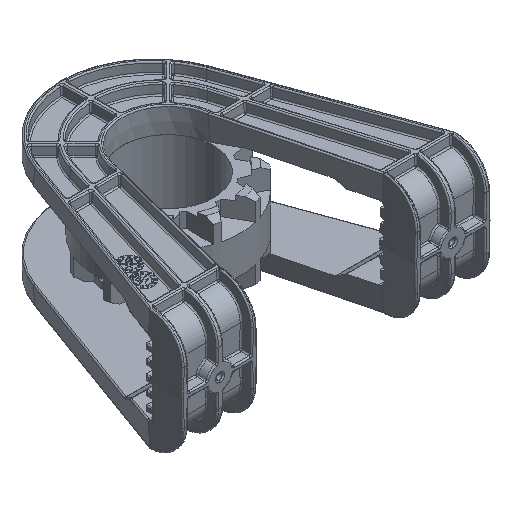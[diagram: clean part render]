
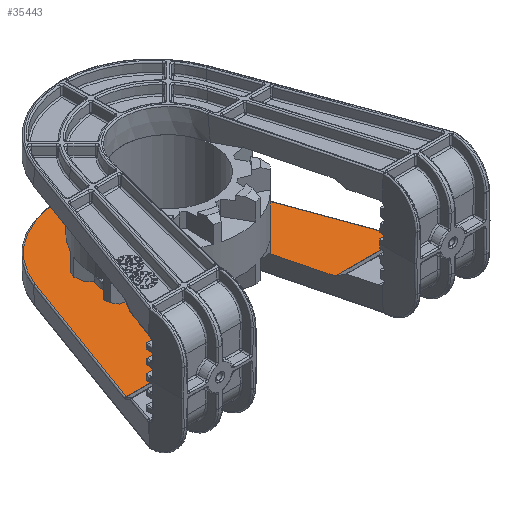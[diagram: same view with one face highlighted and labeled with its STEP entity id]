
A CAD part, isometric view. The second image highlights one B-rep face of the part: STEP entity #35443.
In plain terms, the highlighted planar face has unit normal (0, 0, 1).
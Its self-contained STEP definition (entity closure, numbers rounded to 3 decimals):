
#1847 = CARTESIAN_POINT ( 'NONE',  ( -20.079, -8.832, -16. ) ) ;
#3156 = DIRECTION ( 'NONE',  ( 0., 0., -1. ) ) ;
#3862 = CARTESIAN_POINT ( 'NONE',  ( 0., 5.68, -16. ) ) ;
#4223 = EDGE_LOOP ( 'NONE', ( #18133, #47985, #24289, #18151, #28678, #7594, #11829, #5000, #27649, #31219, #21026, #26348 ) ) ;
#4475 = DIRECTION ( 'NONE',  ( 1., 0., 0. ) ) ;
#4730 = CARTESIAN_POINT ( 'NONE',  ( 0., 5.68, -16. ) ) ;
#5000 = ORIENTED_EDGE ( 'NONE', *, *, #25283, .T. ) ;
#5078 = CARTESIAN_POINT ( 'NONE',  ( -19.907, -9.111, -16. ) ) ;
#5920 = LINE ( 'NONE', #43478, #38930 ) ;
#6072 = CARTESIAN_POINT ( 'NONE',  ( 26.891, -36.528, -16. ) ) ;
#6217 = CARTESIAN_POINT ( 'NONE',  ( -32.788, 17.614, -16. ) ) ;
#6945 = VECTOR ( 'NONE', #4475, 1000. ) ;
#7594 = ORIENTED_EDGE ( 'NONE', *, *, #61002, .T. ) ;
#8275 = CARTESIAN_POINT ( 'NONE',  ( 6.622, 43.048, -16. ) ) ;
#8413 = VERTEX_POINT ( 'NONE', #60942 ) ;
#8722 = CARTESIAN_POINT ( 'NONE',  ( 0., -36.528, -16. ) ) ;
#8930 = DIRECTION ( 'NONE',  ( -0.342, -0.94, 0. ) ) ;
#10292 = EDGE_CURVE ( 'NONE', #34547, #33621, #5920, .T. ) ;
#10445 = EDGE_CURVE ( 'NONE', #30846, #32881, #24579, .T. ) ;
#11627 = EDGE_CURVE ( 'NONE', #48655, #33602, #58196, .T. ) ;
#11829 = ORIENTED_EDGE ( 'NONE', *, *, #11627, .T. ) ;
#11835 = CARTESIAN_POINT ( 'NONE',  ( 32.788, 17.614, -16. ) ) ;
#12977 = CARTESIAN_POINT ( 'NONE',  ( 20.74, -7.338, -16. ) ) ;
#13316 = DIRECTION ( 'NONE',  ( 0., 0., 1. ) ) ;
#13423 = EDGE_CURVE ( 'NONE', #18083, #24098, #24248, .T. ) ;
#13757 = EDGE_CURVE ( 'NONE', #8413, #29912, #27077, .T. ) ;
#13772 = AXIS2_PLACEMENT_3D ( 'NONE', #17136, #3156, #40681 ) ;
#14533 = DIRECTION ( 'NONE',  ( -0.342, 0.94, 0. ) ) ;
#14537 = CARTESIAN_POINT ( 'NONE',  ( -6.622, 43.048, -16. ) ) ;
#15807 = EDGE_CURVE ( 'NONE', #32881, #18012, #37915, .T. ) ;
#16444 = CARTESIAN_POINT ( 'NONE',  ( 0., 40.573, -16. ) ) ;
#17136 = CARTESIAN_POINT ( 'NONE',  ( 0., 0., -16. ) ) ;
#17708 = LINE ( 'NONE', #28409, #23580 ) ;
#17712 = CARTESIAN_POINT ( 'NONE',  ( 19.907, -9.111, -16. ) ) ;
#18012 = VERTEX_POINT ( 'NONE', #47261 ) ;
#18083 = VERTEX_POINT ( 'NONE', #61420 ) ;
#18087 = EDGE_CURVE ( 'NONE', #63055, #34547, #37696, .T. ) ;
#18133 = ORIENTED_EDGE ( 'NONE', *, *, #20943, .T. ) ;
#18151 = ORIENTED_EDGE ( 'NONE', *, *, #19869, .T. ) ;
#19869 = EDGE_CURVE ( 'NONE', #18012, #18083, #17708, .T. ) ;
#20607 = CARTESIAN_POINT ( 'NONE',  ( 0., 41.361, -16. ) ) ;
#20739 = CARTESIAN_POINT ( 'NONE',  ( -20.74, -7.338, -16. ) ) ;
#20943 = EDGE_CURVE ( 'NONE', #33621, #30846, #32067, .T. ) ;
#21026 = ORIENTED_EDGE ( 'NONE', *, *, #18087, .T. ) ;
#21376 = VECTOR ( 'NONE', #8930, 1000. ) ;
#22653 = CARTESIAN_POINT ( 'NONE',  ( 19.907, -9.111, -16. ) ) ;
#23580 = VECTOR ( 'NONE', #58580, 1000. ) ;
#24098 = VERTEX_POINT ( 'NONE', #25966 ) ;
#24248 = LINE ( 'NONE', #14537, #57197 ) ;
#24289 = ORIENTED_EDGE ( 'NONE', *, *, #15807, .T. ) ;
#24579 = CIRCLE ( 'NONE', #65330, 34.892 ) ;
#25283 = EDGE_CURVE ( 'NONE', #33602, #8413, #52481, .T. ) ;
#25966 = CARTESIAN_POINT ( 'NONE',  ( -19.907, -9.111, -16. ) ) ;
#26348 = ORIENTED_EDGE ( 'NONE', *, *, #10292, .T. ) ;
#26811 = DIRECTION ( 'NONE',  ( 0., 1., 0. ) ) ;
#27077 = B_SPLINE_CURVE_WITH_KNOTS ( 'NONE', 3,
 ( #12977, #54936, #30096, #36565, #34418, #22653 ),
 .UNSPECIFIED., .F., .F.,
 ( 4, 2, 4 ),
 ( 0., 0.001, 0.002 ),
 .UNSPECIFIED. ) ;
#27649 = ORIENTED_EDGE ( 'NONE', *, *, #13757, .T. ) ;
#27941 = VECTOR ( 'NONE', #33014, 1000. ) ;
#28409 = CARTESIAN_POINT ( 'NONE',  ( 0., -36.528, -16. ) ) ;
#28678 = ORIENTED_EDGE ( 'NONE', *, *, #13423, .T. ) ;
#29163 = DIRECTION ( 'NONE',  ( 0., 1., 0. ) ) ;
#29912 = VERTEX_POINT ( 'NONE', #17712 ) ;
#30096 = CARTESIAN_POINT ( 'NONE',  ( 20.508, -7.949, -16. ) ) ;
#30345 = EDGE_CURVE ( 'NONE', #29912, #63055, #66383, .T. ) ;
#30540 = AXIS2_PLACEMENT_3D ( 'NONE', #43949, #37446, #26811 ) ;
#30846 = VERTEX_POINT ( 'NONE', #16444 ) ;
#31219 = ORIENTED_EDGE ( 'NONE', *, *, #30345, .T. ) ;
#31600 = DIRECTION ( 'NONE',  ( 0., 1., 0. ) ) ;
#32067 = CIRCLE ( 'NONE', #47286, 34.892 ) ;
#32804 = DIRECTION ( 'NONE',  ( 0.247, 0.969, 0. ) ) ;
#32881 = VERTEX_POINT ( 'NONE', #6217 ) ;
#33014 = DIRECTION ( 'NONE',  ( 0.247, -0.969, 0. ) ) ;
#33602 = VERTEX_POINT ( 'NONE', #57077 ) ;
#33621 = VERTEX_POINT ( 'NONE', #11835 ) ;
#34418 = CARTESIAN_POINT ( 'NONE',  ( 20.079, -8.832, -16. ) ) ;
#34547 = VERTEX_POINT ( 'NONE', #44885 ) ;
#35443 = ADVANCED_FACE ( 'NONE', ( #45271 ), #43114, .F. ) ;
#36565 = CARTESIAN_POINT ( 'NONE',  ( 20.231, -8.543, -16. ) ) ;
#37446 = DIRECTION ( 'NONE',  ( 0., 0., -1. ) ) ;
#37696 = LINE ( 'NONE', #8722, #6945 ) ;
#37915 = LINE ( 'NONE', #48753, #21376 ) ;
#38930 = VECTOR ( 'NONE', #14533, 1000. ) ;
#40681 = DIRECTION ( 'NONE',  ( 0., 1., 0. ) ) ;
#43114 = PLANE ( 'NONE',  #61766 ) ;
#43478 = CARTESIAN_POINT ( 'NONE',  ( 21.321, 49.121, -16. ) ) ;
#43949 = CARTESIAN_POINT ( 'NONE',  ( 0., 0., -16. ) ) ;
#44885 = CARTESIAN_POINT ( 'NONE',  ( 52.494, -36.528, -16. ) ) ;
#45271 = FACE_OUTER_BOUND ( 'NONE', #4223, .T. ) ;
#45972 = B_SPLINE_CURVE_WITH_KNOTS ( 'NONE', 3,
 ( #5078, #1847, #53561, #64269, #61049, #51361 ),
 .UNSPECIFIED., .F., .F.,
 ( 4, 2, 4 ),
 ( 0., 0.001, 0.002 ),
 .UNSPECIFIED. ) ;
#47261 = CARTESIAN_POINT ( 'NONE',  ( -52.494, -36.528, -16. ) ) ;
#47286 = AXIS2_PLACEMENT_3D ( 'NONE', #4730, #13316, #31600 ) ;
#47985 = ORIENTED_EDGE ( 'NONE', *, *, #10445, .T. ) ;
#48655 = VERTEX_POINT ( 'NONE', #20739 ) ;
#48753 = CARTESIAN_POINT ( 'NONE',  ( -21.321, 49.121, -16. ) ) ;
#49626 = DIRECTION ( 'NONE',  ( 0., 0., -1. ) ) ;
#51361 = CARTESIAN_POINT ( 'NONE',  ( -20.74, -7.338, -16. ) ) ;
#52272 = DIRECTION ( 'NONE',  ( 0., 0., 1. ) ) ;
#52481 = CIRCLE ( 'NONE', #13772, 22. ) ;
#53561 = CARTESIAN_POINT ( 'NONE',  ( -20.231, -8.543, -16. ) ) ;
#54936 = CARTESIAN_POINT ( 'NONE',  ( 20.631, -7.647, -16. ) ) ;
#57077 = CARTESIAN_POINT ( 'NONE',  ( 0., 22., -16. ) ) ;
#57197 = VECTOR ( 'NONE', #32804, 1000. ) ;
#58196 = CIRCLE ( 'NONE', #30540, 22. ) ;
#58580 = DIRECTION ( 'NONE',  ( 1., 0., 0. ) ) ;
#60892 = DIRECTION ( 'NONE',  ( 0., 1., 0. ) ) ;
#60942 = CARTESIAN_POINT ( 'NONE',  ( 20.74, -7.338, -16. ) ) ;
#61002 = EDGE_CURVE ( 'NONE', #24098, #48655, #45972, .T. ) ;
#61049 = CARTESIAN_POINT ( 'NONE',  ( -20.631, -7.647, -16. ) ) ;
#61420 = CARTESIAN_POINT ( 'NONE',  ( -26.891, -36.528, -16. ) ) ;
#61766 = AXIS2_PLACEMENT_3D ( 'NONE', #20607, #49626, #29163 ) ;
#63055 = VERTEX_POINT ( 'NONE', #6072 ) ;
#64269 = CARTESIAN_POINT ( 'NONE',  ( -20.508, -7.949, -16. ) ) ;
#65330 = AXIS2_PLACEMENT_3D ( 'NONE', #3862, #52272, #60892 ) ;
#66383 = LINE ( 'NONE', #8275, #27941 ) ;
